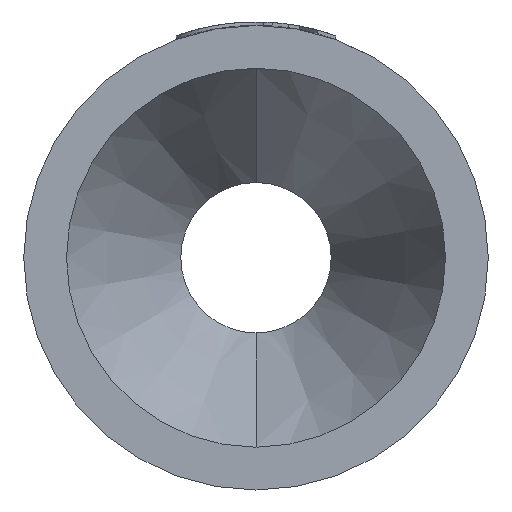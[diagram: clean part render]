
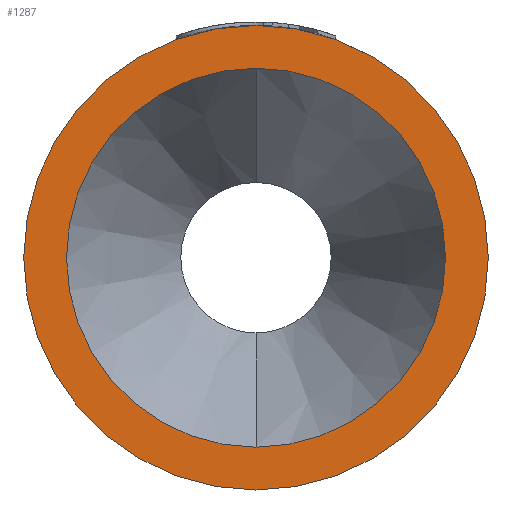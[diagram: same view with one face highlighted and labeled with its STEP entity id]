
A CAD part, left-side view. The second image highlights one B-rep face of the part: STEP entity #1287.
In plain terms, the highlighted planar face has unit normal (-1, 0, 0).
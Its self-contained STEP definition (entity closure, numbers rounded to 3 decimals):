
#35 = VERTEX_POINT ( 'NONE', #2644 ) ;
#109 = EDGE_CURVE ( 'NONE', #3290, #892, #502, .T. ) ;
#172 = EDGE_LOOP ( 'NONE', ( #2235, #2615 ) ) ;
#295 = CARTESIAN_POINT ( 'NONE',  ( 0., 0., 31.5 ) ) ;
#333 = CIRCLE ( 'NONE', #1122, 25.7 ) ;
#338 = DIRECTION ( 'NONE',  ( 0., 0., 1. ) ) ;
#346 = DIRECTION ( 'NONE',  ( -1., 0., 0. ) ) ;
#360 = CARTESIAN_POINT ( 'NONE',  ( 0., 0., 0. ) ) ;
#470 = CIRCLE ( 'NONE', #1348, 31.5 ) ;
#502 = CIRCLE ( 'NONE', #3111, 31.5 ) ;
#854 = ORIENTED_EDGE ( 'NONE', *, *, #109, .T. ) ;
#892 = VERTEX_POINT ( 'NONE', #295 ) ;
#979 = AXIS2_PLACEMENT_3D ( 'NONE', #360, #346, #338 ) ;
#1054 = DIRECTION ( 'NONE',  ( 0., 0., 1. ) ) ;
#1059 = DIRECTION ( 'NONE',  ( -1., 0., 0. ) ) ;
#1068 = CARTESIAN_POINT ( 'NONE',  ( 0., 0., 0. ) ) ;
#1122 = AXIS2_PLACEMENT_3D ( 'NONE', #1068, #1059, #1054 ) ;
#1287 = ADVANCED_FACE ( 'NONE', ( #1933, #2786 ), #2027, .F. ) ;
#1330 = VERTEX_POINT ( 'NONE', #1684 ) ;
#1348 = AXIS2_PLACEMENT_3D ( 'NONE', #2971, #2965, #2935 ) ;
#1575 = EDGE_LOOP ( 'NONE', ( #3120, #854 ) ) ;
#1684 = CARTESIAN_POINT ( 'NONE',  ( 0., 0., 25.7 ) ) ;
#1783 = DIRECTION ( 'NONE',  ( 0., 0., -1. ) ) ;
#1799 = DIRECTION ( 'NONE',  ( 1., 0., 0. ) ) ;
#1821 = CARTESIAN_POINT ( 'NONE',  ( 0., 25.7, 0. ) ) ;
#1908 = EDGE_CURVE ( 'NONE', #892, #3290, #470, .T. ) ;
#1933 = FACE_BOUND ( 'NONE', #172, .T. ) ;
#2027 = PLANE ( 'NONE',  #2668 ) ;
#2235 = ORIENTED_EDGE ( 'NONE', *, *, #2354, .F. ) ;
#2354 = EDGE_CURVE ( 'NONE', #1330, #35, #333, .T. ) ;
#2544 = EDGE_CURVE ( 'NONE', #35, #1330, #2879, .T. ) ;
#2615 = ORIENTED_EDGE ( 'NONE', *, *, #2544, .F. ) ;
#2644 = CARTESIAN_POINT ( 'NONE',  ( 0., 0., -25.7 ) ) ;
#2668 = AXIS2_PLACEMENT_3D ( 'NONE', #1821, #1799, #1783 ) ;
#2786 = FACE_OUTER_BOUND ( 'NONE', #1575, .T. ) ;
#2817 = CARTESIAN_POINT ( 'NONE',  ( 0., 0., 0. ) ) ;
#2835 = CARTESIAN_POINT ( 'NONE',  ( 0., 0., -31.5 ) ) ;
#2846 = DIRECTION ( 'NONE',  ( 0., 0., 1. ) ) ;
#2850 = DIRECTION ( 'NONE',  ( -1., 0., 0. ) ) ;
#2879 = CIRCLE ( 'NONE', #979, 25.7 ) ;
#2935 = DIRECTION ( 'NONE',  ( 0., 0., 1. ) ) ;
#2965 = DIRECTION ( 'NONE',  ( -1., 0., 0. ) ) ;
#2971 = CARTESIAN_POINT ( 'NONE',  ( 0., 0., 0. ) ) ;
#3111 = AXIS2_PLACEMENT_3D ( 'NONE', #2817, #2850, #2846 ) ;
#3120 = ORIENTED_EDGE ( 'NONE', *, *, #1908, .T. ) ;
#3290 = VERTEX_POINT ( 'NONE', #2835 ) ;
